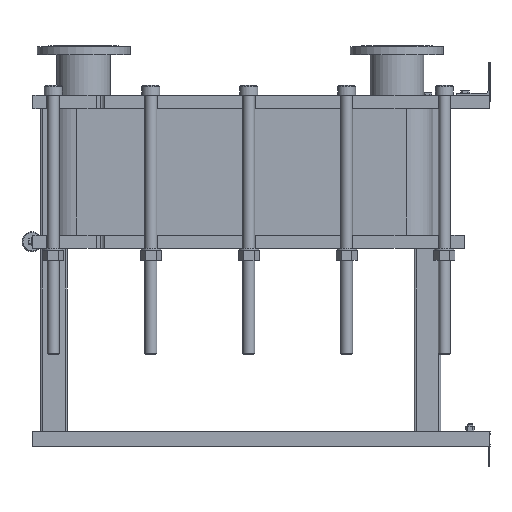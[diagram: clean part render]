
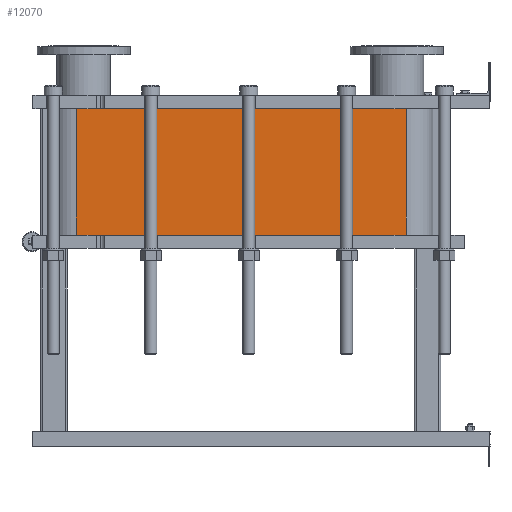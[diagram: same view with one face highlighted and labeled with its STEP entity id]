
A CAD part, left-side view. The second image highlights one B-rep face of the part: STEP entity #12070.
In plain terms, the highlighted planar face has unit normal (-1, 0, 0).
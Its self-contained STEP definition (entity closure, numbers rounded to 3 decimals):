
#1064=LINE('',#21140,#2164);
#1065=LINE('',#21144,#2165);
#1066=LINE('',#21146,#2166);
#1067=LINE('',#21147,#2167);
#2164=VECTOR('',#15790,10.);
#2165=VECTOR('',#15795,10.);
#2166=VECTOR('',#15796,10.);
#2167=VECTOR('',#15797,10.);
#3304=FACE_OUTER_BOUND('',#4091,.T.);
#4091=EDGE_LOOP('',(#9793,#9794,#9795,#9796));
#5677=VERTEX_POINT('',#21137);
#5678=VERTEX_POINT('',#21139);
#5679=VERTEX_POINT('',#21143);
#5680=VERTEX_POINT('',#21145);
#7118=EDGE_CURVE('',#5678,#5677,#1064,.T.);
#7120=EDGE_CURVE('',#5677,#5679,#1065,.T.);
#7121=EDGE_CURVE('',#5680,#5679,#1066,.T.);
#7122=EDGE_CURVE('',#5680,#5678,#1067,.T.);
#9793=ORIENTED_EDGE('',*,*,#7120,.T.);
#9794=ORIENTED_EDGE('',*,*,#7121,.F.);
#9795=ORIENTED_EDGE('',*,*,#7122,.T.);
#9796=ORIENTED_EDGE('',*,*,#7118,.T.);
#11441=PLANE('',#13191);
#12070=ADVANCED_FACE('',(#3304),#11441,.T.);
#13191=AXIS2_PLACEMENT_3D('',#21142,#15793,#15794);
#15790=DIRECTION('',(0.,0.,-1.));
#15793=DIRECTION('center_axis',(-1.,0.,0.));
#15794=DIRECTION('ref_axis',(0.,1.,0.));
#15795=DIRECTION('',(0.,-1.,0.));
#15796=DIRECTION('',(0.,0.,-1.));
#15797=DIRECTION('',(0.,1.,0.));
#21137=CARTESIAN_POINT('',(-248.152,1243.818,-379.5));
#21139=CARTESIAN_POINT('',(-248.152,1243.818,0.));
#21140=CARTESIAN_POINT('',(-248.152,1243.818,0.));
#21142=CARTESIAN_POINT('Origin',(-248.152,251.818,0.));
#21143=CARTESIAN_POINT('',(-248.152,251.818,-379.5));
#21144=CARTESIAN_POINT('',(-248.152,499.818,-379.5));
#21145=CARTESIAN_POINT('',(-248.152,251.818,0.));
#21146=CARTESIAN_POINT('',(-248.152,251.818,0.));
#21147=CARTESIAN_POINT('',(-248.152,251.818,0.));
